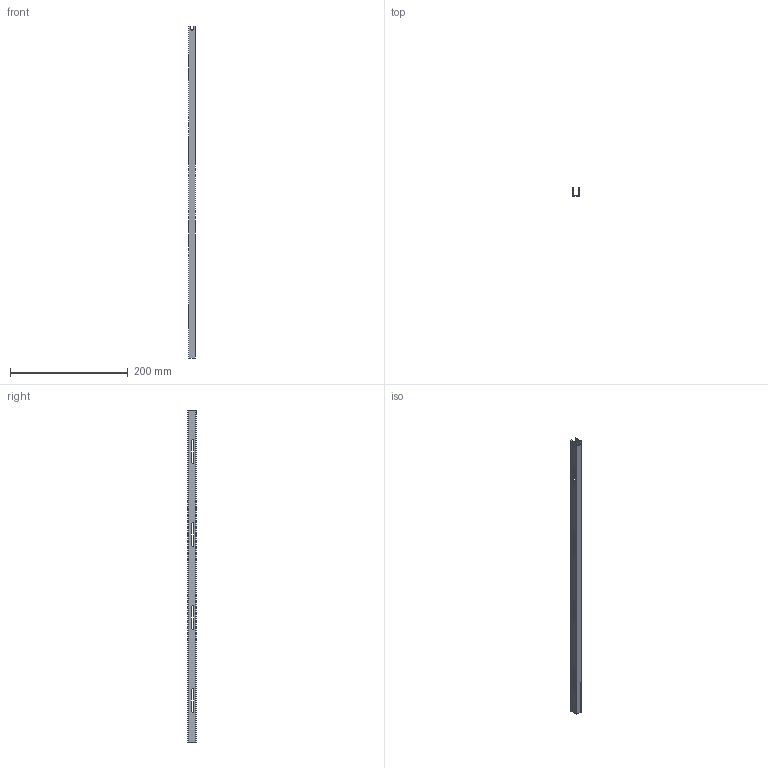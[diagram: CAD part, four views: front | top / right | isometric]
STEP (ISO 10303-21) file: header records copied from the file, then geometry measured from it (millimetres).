
FILE_DESCRIPTION (( 'STEP AP203' ), '1' );
FILE_NAME ('GlasLine_up_down_24.STEP', '2024-12-02T08:18:10', ( '' ), ( '' ), 'SwSTEP 2.0', 'SolidWorks 2023', '' );
FILE_SCHEMA (( 'CONFIG_CONTROL_DESIGN' ));
Length unit declared in the file: millimetre
Products named in the file (1): GlasLine_up_down_24
Bounding box: 11.2 x 14 x 564 mm (x, y, z)
Volume: 26182.6 mm3; surface area: 40279.8 mm2
Topology: 1 solids, 1 shells, 62 faces, 180 edges, 120 vertices
Faces by surface type: plane 33, cylinder 29
Entity records: 2171 total; most frequent: DIRECTION 364, CARTESIAN_POINT 363, ORIENTED_EDGE 360, EDGE_CURVE 180, VECTOR 122, LINE 122, AXIS2_PLACEMENT_3D 121, VERTEX_POINT 120
